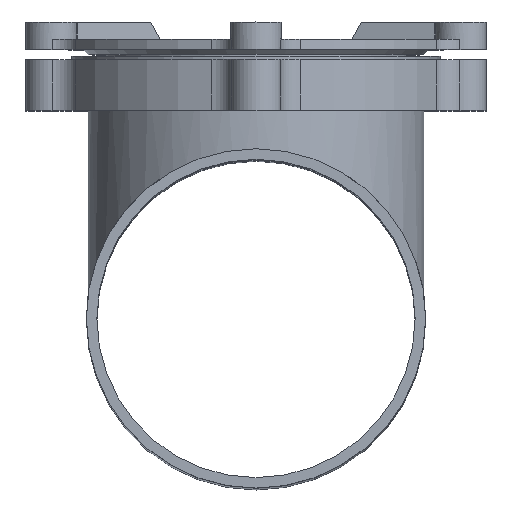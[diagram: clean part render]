
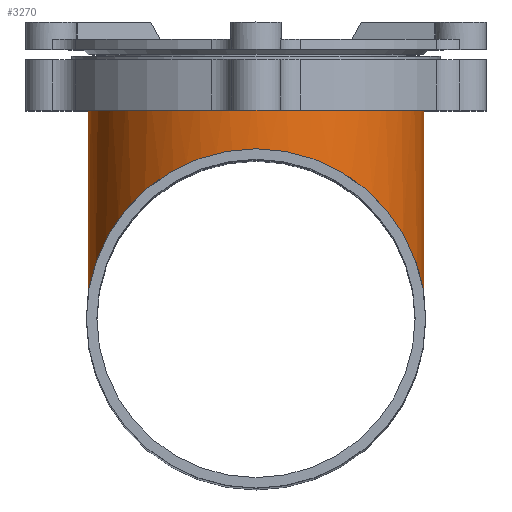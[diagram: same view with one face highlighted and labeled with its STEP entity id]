
A CAD part, top view. The second image highlights one B-rep face of the part: STEP entity #3270.
In plain terms, the highlighted cylindrical face has radius 99 mm (diameter 198 mm), a partial arc.
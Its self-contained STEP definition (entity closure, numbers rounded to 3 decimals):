
#106=B_SPLINE_CURVE_WITH_KNOTS($,3,(#5022,#5023,#5024,#5025,#5026,#5027,
#5028,#5029,#5030,#5031,#5032,#5033,#5034,#5035,#5036,#5037,#5038,#5039,
#5040,#5041,#5042,#5043,#5044,#5045,#5046,#5047,#5048,#5049,#5050,#5051,
#5052,#5053,#5054,#5055,#5056,#5057,#5058,#5059,#5060,#5061,#5062,#5063,
#5064,#5065,#5066,#5067,#5068,#5069,#5070,#5071,#5072,#5073,#5074,#5075),
 .UNSPECIFIED.,.F.,.F.,(4,2,2,2,2,2,2,2,2,2,2,2,2,2,2,2,2,2,2,2,2,2,2,2,
2,2,4),(0.,0.324,0.649,1.298,1.947,
2.596,3.894,5.192,7.788,10.383,
12.427,14.47,16.514,18.557,20.601,
22.644,24.687,26.731,29.327,31.922,
33.22,34.518,35.167,35.816,36.465,
36.79,37.114),.UNSPECIFIED.);
#128=CYLINDRICAL_SURFACE($,#3479,99.);
#312=FACE_OUTER_BOUND($,#494,.T.);
#494=EDGE_LOOP($,(#2343,#2344,#2345,#2346));
#716=CIRCLE($,#3477,99.);
#915=LINE($,#5158,#1194);
#916=LINE($,#5160,#1195);
#1194=VECTOR($,#3925,128.893);
#1195=VECTOR($,#3928,128.893);
#1472=VERTEX_POINT($,#5018);
#1473=VERTEX_POINT($,#5020);
#1481=VERTEX_POINT($,#5152);
#1482=VERTEX_POINT($,#5154);
#1805=EDGE_CURVE($,#1473,#1472,#106,.T.);
#1818=EDGE_CURVE($,#1482,#1481,#716,.T.);
#1820=EDGE_CURVE($,#1482,#1473,#915,.T.);
#1821=EDGE_CURVE($,#1481,#1472,#916,.T.);
#2343=ORIENTED_EDGE($,*,*,#1818,.T.);
#2344=ORIENTED_EDGE($,*,*,#1821,.T.);
#2345=ORIENTED_EDGE($,*,*,#1805,.F.);
#2346=ORIENTED_EDGE($,*,*,#1820,.F.);
#3270=ADVANCED_FACE($,(#312),#128,.T.);
#3477=AXIS2_PLACEMENT_3D($,#5155,#3920,#3921);
#3479=AXIS2_PLACEMENT_3D($,#5159,#3926,#3927);
#3920=DIRECTION('center_axis',(0.,-1.,0.));
#3921=DIRECTION('ref_axis',(-1.,0.,0.));
#3925=DIRECTION($,(0.,-1.,0.));
#3926=DIRECTION('center_axis',(0.,-1.,0.));
#3927=DIRECTION('ref_axis',(-1.,0.,0.));
#3928=DIRECTION($,(0.,-1.,0.));
#5018=CARTESIAN_POINT('',(-99.,14.107,50.));
#5020=CARTESIAN_POINT('',(99.,14.107,50.));
#5022=CARTESIAN_POINT('Ctrl Pts',(99.,14.107,50.));
#5023=CARTESIAN_POINT('Ctrl Pts',(99.,14.107,51.082));
#5024=CARTESIAN_POINT('Ctrl Pts',(98.983,14.23,52.08));
#5025=CARTESIAN_POINT('Ctrl Pts',(98.925,14.623,53.961));
#5026=CARTESIAN_POINT('Ctrl Pts',(98.885,14.895,54.844));
#5027=CARTESIAN_POINT('Ctrl Pts',(98.739,15.845,57.384));
#5028=CARTESIAN_POINT('Ctrl Pts',(98.608,16.653,58.932));
#5029=CARTESIAN_POINT('Ctrl Pts',(98.289,18.441,61.938));
#5030=CARTESIAN_POINT('Ctrl Pts',(98.102,19.421,63.385));
#5031=CARTESIAN_POINT('Ctrl Pts',(97.668,21.495,66.248));
#5032=CARTESIAN_POINT('Ctrl Pts',(97.422,22.59,67.664));
#5033=CARTESIAN_POINT('Ctrl Pts',(96.583,26.026,71.936));
#5034=CARTESIAN_POINT('Ctrl Pts',(95.896,28.483,74.778));
#5035=CARTESIAN_POINT('Ctrl Pts',(94.227,33.594,80.517));
#5036=CARTESIAN_POINT('Ctrl Pts',(93.245,36.252,83.411));
#5037=CARTESIAN_POINT('Ctrl Pts',(89.785,44.426,92.18));
#5038=CARTESIAN_POINT('Ctrl Pts',(86.805,50.088,98.083));
#5039=CARTESIAN_POINT('Ctrl Pts',(79.429,61.115,109.482));
#5040=CARTESIAN_POINT('Ctrl Pts',(75.032,66.481,114.975));
#5041=CARTESIAN_POINT('Ctrl Pts',(66.045,75.291,123.962));
#5042=CARTESIAN_POINT('Ctrl Pts',(61.48,79.11,127.845));
#5043=CARTESIAN_POINT('Ctrl Pts',(51.263,86.084,134.922));
#5044=CARTESIAN_POINT('Ctrl Pts',(45.61,89.237,138.116));
#5045=CARTESIAN_POINT('Ctrl Pts',(33.5,94.452,143.394));
#5046=CARTESIAN_POINT('Ctrl Pts',(27.029,96.519,145.483));
#5047=CARTESIAN_POINT('Ctrl Pts',(13.685,99.293,148.286));
#5048=CARTESIAN_POINT('Ctrl Pts',(6.811,100.,149.));
#5049=CARTESIAN_POINT('Ctrl Pts',(-6.811,100.,149.));
#5050=CARTESIAN_POINT('Ctrl Pts',(-13.685,99.293,148.286));
#5051=CARTESIAN_POINT('Ctrl Pts',(-27.029,96.519,145.483));
#5052=CARTESIAN_POINT('Ctrl Pts',(-33.5,94.452,143.394));
#5053=CARTESIAN_POINT('Ctrl Pts',(-45.61,89.237,138.116));
#5054=CARTESIAN_POINT('Ctrl Pts',(-51.263,86.084,134.922));
#5055=CARTESIAN_POINT('Ctrl Pts',(-61.48,79.11,127.845));
#5056=CARTESIAN_POINT('Ctrl Pts',(-66.045,75.291,123.962));
#5057=CARTESIAN_POINT('Ctrl Pts',(-75.032,66.481,114.975));
#5058=CARTESIAN_POINT('Ctrl Pts',(-79.429,61.115,109.482));
#5059=CARTESIAN_POINT('Ctrl Pts',(-86.805,50.088,98.083));
#5060=CARTESIAN_POINT('Ctrl Pts',(-89.785,44.426,92.18));
#5061=CARTESIAN_POINT('Ctrl Pts',(-93.245,36.252,83.411));
#5062=CARTESIAN_POINT('Ctrl Pts',(-94.227,33.594,80.517));
#5063=CARTESIAN_POINT('Ctrl Pts',(-95.896,28.483,74.778));
#5064=CARTESIAN_POINT('Ctrl Pts',(-96.583,26.026,71.936));
#5065=CARTESIAN_POINT('Ctrl Pts',(-97.422,22.59,67.664));
#5066=CARTESIAN_POINT('Ctrl Pts',(-97.668,21.495,66.248));
#5067=CARTESIAN_POINT('Ctrl Pts',(-98.102,19.421,63.385));
#5068=CARTESIAN_POINT('Ctrl Pts',(-98.289,18.441,61.938));
#5069=CARTESIAN_POINT('Ctrl Pts',(-98.608,16.653,58.932));
#5070=CARTESIAN_POINT('Ctrl Pts',(-98.739,15.845,57.384));
#5071=CARTESIAN_POINT('Ctrl Pts',(-98.885,14.895,54.844));
#5072=CARTESIAN_POINT('Ctrl Pts',(-98.925,14.623,53.961));
#5073=CARTESIAN_POINT('Ctrl Pts',(-98.983,14.23,52.08));
#5074=CARTESIAN_POINT('Ctrl Pts',(-99.,14.107,51.082));
#5075=CARTESIAN_POINT('Ctrl Pts',(-99.,14.107,50.));
#5152=CARTESIAN_POINT('',(-99.,143.,50.));
#5154=CARTESIAN_POINT('',(99.,143.,50.));
#5155=CARTESIAN_POINT('Origin',(0.,143.,50.));
#5158=CARTESIAN_POINT($,(99.,155.,50.));
#5159=CARTESIAN_POINT('Origin',(0.,155.,50.));
#5160=CARTESIAN_POINT($,(-99.,155.,50.));
